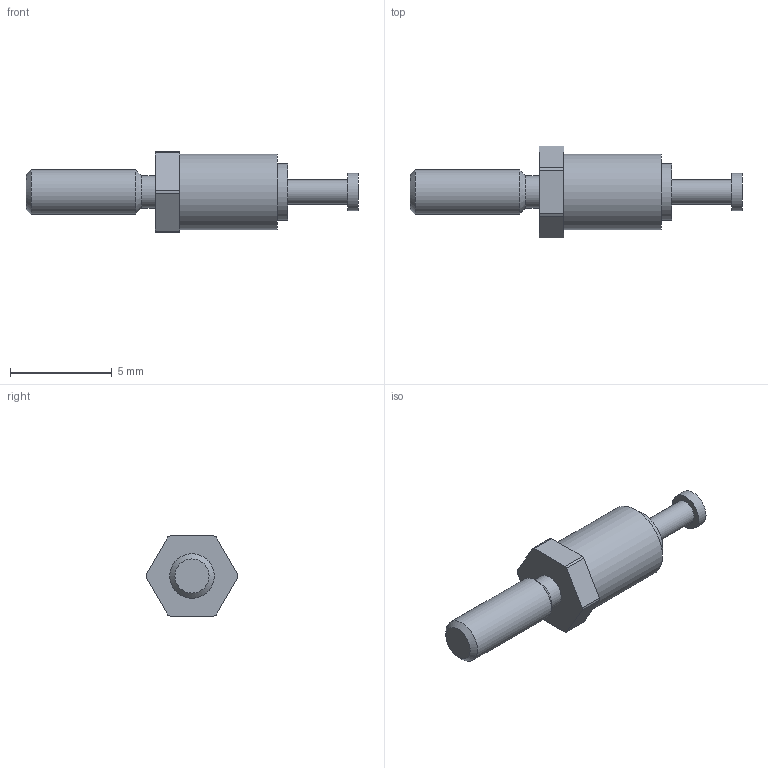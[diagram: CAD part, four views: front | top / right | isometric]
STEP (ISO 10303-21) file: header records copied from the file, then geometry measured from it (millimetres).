
FILE_DESCRIPTION(/* description */ (''),/* implementation_level */ '2;1');
FILE_NAME(/* name */ '\\Snap1\dwgs\Customer 3D Models\572\572-4870-03 Customer model.stp',/* time_stamp */ '2017-01-12T11:23:03+00:00',/* author */ ('paulk'),/* organization */ (''),/* preprocessor_version */ 'ST-DEVELOPER v15.2',/* originating_system */ 'Autodesk Inventor 2014',/* authorisation */ '');
FILE_SCHEMA (('CONFIG_CONTROL_DESIGN'));
Length unit declared in the file: millimetre
Products named in the file (1): 572-4870-03 Customer model
Bounding box: 16.28 x 4.5 x 3.96 mm (x, y, z)
Volume: 97.6 mm3; surface area: 163.8 mm2
Topology: 1 solids, 1 shells, 27 faces, 57 edges, 37 vertices
Faces by surface type: plane 13, cylinder 12, cone 2
Full cylindrical faces by diameter (mm): 1.194 x1, 1.6 x1, 1.829 x1, 2.184 x1, 2.769 x1, 3.708 x1
Entity records: 761 total; most frequent: DIRECTION 130, CARTESIAN_POINT 114, ORIENTED_EDGE 98, AXIS2_PLACEMENT_3D 53, EDGE_CURVE 49, EDGE_LOOP 40, VERTEX_POINT 37, STYLED_ITEM 28
